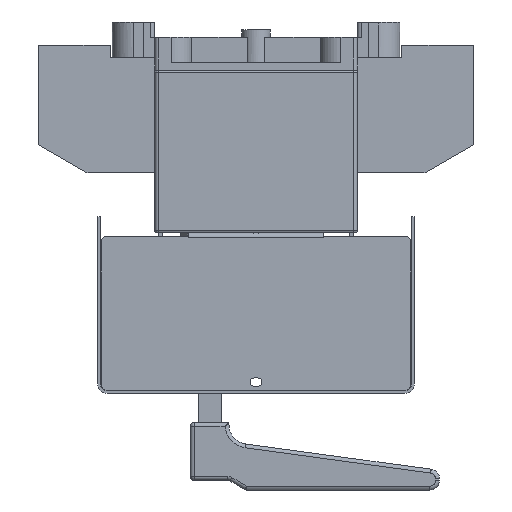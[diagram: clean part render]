
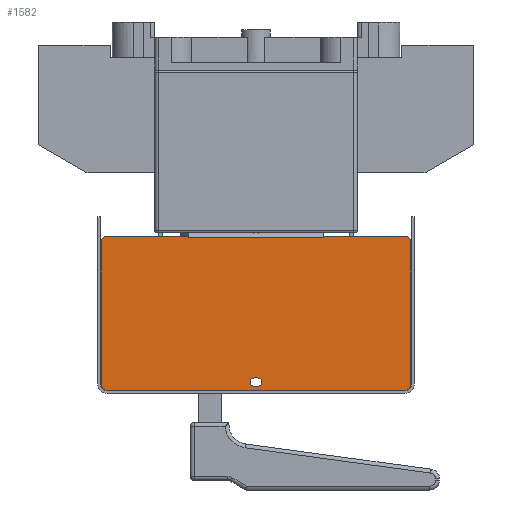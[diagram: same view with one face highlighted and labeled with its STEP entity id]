
A CAD part, left-side view. The second image highlights one B-rep face of the part: STEP entity #1582.
In plain terms, the highlighted planar face has unit normal (-1, 0, 0).
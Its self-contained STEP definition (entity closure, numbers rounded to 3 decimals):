
#694=FACE_BOUND('',#5368,.T.);
#695=FACE_BOUND('',#5369,.T.);
#1582=ADVANCED_FACE('',(#694,#695),#2783,.T.);
#2783=PLANE('',#28481);
#5368=EDGE_LOOP('',(#11204,#11205,#11206,#11207));
#5369=EDGE_LOOP('',(#11208,#11209,#11210,#11211,#11212,#11213,#11214,#11215,
#11216,#11217,#11218,#11219,#11220,#11221));
#6665=CIRCLE('',#28475,2.1);
#6666=CIRCLE('',#28476,2.1);
#6667=CIRCLE('',#28477,3.);
#6668=CIRCLE('',#28478,3.);
#6669=CIRCLE('',#28479,3.);
#6670=CIRCLE('',#28480,3.);
#11204=ORIENTED_EDGE('',*,*,#19575,.T.);
#11205=ORIENTED_EDGE('',*,*,#19576,.T.);
#11206=ORIENTED_EDGE('',*,*,#19577,.T.);
#11207=ORIENTED_EDGE('',*,*,#19578,.T.);
#11208=ORIENTED_EDGE('',*,*,#19554,.F.);
#11209=ORIENTED_EDGE('',*,*,#19552,.T.);
#11210=ORIENTED_EDGE('',*,*,#19539,.T.);
#11211=ORIENTED_EDGE('',*,*,#19556,.T.);
#11212=ORIENTED_EDGE('',*,*,#19559,.F.);
#11213=ORIENTED_EDGE('',*,*,#19579,.T.);
#11214=ORIENTED_EDGE('',*,*,#19580,.T.);
#11215=ORIENTED_EDGE('',*,*,#19581,.T.);
#11216=ORIENTED_EDGE('',*,*,#19582,.T.);
#11217=ORIENTED_EDGE('',*,*,#19583,.T.);
#11218=ORIENTED_EDGE('',*,*,#19584,.T.);
#11219=ORIENTED_EDGE('',*,*,#19585,.T.);
#11220=ORIENTED_EDGE('',*,*,#19586,.T.);
#11221=ORIENTED_EDGE('',*,*,#19587,.T.);
#16307=VERTEX_POINT('',#41655);
#16308=VERTEX_POINT('',#41657);
#16313=VERTEX_POINT('',#41678);
#16316=VERTEX_POINT('',#41686);
#16317=VERTEX_POINT('',#41690);
#16319=VERTEX_POINT('',#41696);
#16333=VERTEX_POINT('',#41728);
#16334=VERTEX_POINT('',#41729);
#16335=VERTEX_POINT('',#41731);
#16336=VERTEX_POINT('',#41733);
#16337=VERTEX_POINT('',#41736);
#16338=VERTEX_POINT('',#41738);
#16339=VERTEX_POINT('',#41740);
#16340=VERTEX_POINT('',#41742);
#16341=VERTEX_POINT('',#41744);
#16342=VERTEX_POINT('',#41746);
#16343=VERTEX_POINT('',#41748);
#16344=VERTEX_POINT('',#41750);
#19539=EDGE_CURVE('',#16308,#16307,#22964,.T.);
#19552=EDGE_CURVE('',#16313,#16308,#22974,.T.);
#19554=EDGE_CURVE('',#16313,#16316,#22976,.T.);
#19556=EDGE_CURVE('',#16307,#16317,#22978,.T.);
#19559=EDGE_CURVE('',#16319,#16317,#22981,.T.);
#19575=EDGE_CURVE('',#16333,#16334,#6665,.T.);
#19576=EDGE_CURVE('',#16334,#16335,#22991,.T.);
#19577=EDGE_CURVE('',#16335,#16336,#6666,.T.);
#19578=EDGE_CURVE('',#16336,#16333,#22992,.T.);
#19579=EDGE_CURVE('',#16319,#16337,#22993,.T.);
#19580=EDGE_CURVE('',#16337,#16338,#6667,.T.);
#19581=EDGE_CURVE('',#16338,#16339,#22994,.T.);
#19582=EDGE_CURVE('',#16339,#16340,#6668,.T.);
#19583=EDGE_CURVE('',#16340,#16341,#22995,.T.);
#19584=EDGE_CURVE('',#16341,#16342,#6669,.T.);
#19585=EDGE_CURVE('',#16342,#16343,#22996,.T.);
#19586=EDGE_CURVE('',#16343,#16344,#6670,.T.);
#19587=EDGE_CURVE('',#16344,#16316,#22997,.T.);
#22964=LINE('',#41656,#25921);
#22974=LINE('',#41681,#25931);
#22976=LINE('',#41685,#25933);
#22978=LINE('',#41689,#25935);
#22981=LINE('',#41695,#25938);
#22991=LINE('',#41730,#25948);
#22992=LINE('',#41734,#25949);
#22993=LINE('',#41735,#25950);
#22994=LINE('',#41739,#25951);
#22995=LINE('',#41743,#25952);
#22996=LINE('',#41747,#25953);
#22997=LINE('',#41751,#25954);
#25921=VECTOR('',#33573,1.);
#25931=VECTOR('',#33599,1.);
#25933=VECTOR('',#33603,1.);
#25935=VECTOR('',#33607,1.);
#25938=VECTOR('',#33612,1.);
#25948=VECTOR('',#33640,1.);
#25949=VECTOR('',#33643,1.);
#25950=VECTOR('',#33644,1.);
#25951=VECTOR('',#33647,1.);
#25952=VECTOR('',#33650,1.);
#25953=VECTOR('',#33653,1.);
#25954=VECTOR('',#33656,1.);
#28475=AXIS2_PLACEMENT_3D('',#41727,#33638,#33639);
#28476=AXIS2_PLACEMENT_3D('',#41732,#33641,#33642);
#28477=AXIS2_PLACEMENT_3D('',#41737,#33645,#33646);
#28478=AXIS2_PLACEMENT_3D('',#41741,#33648,#33649);
#28479=AXIS2_PLACEMENT_3D('',#41745,#33651,#33652);
#28480=AXIS2_PLACEMENT_3D('',#41749,#33654,#33655);
#28481=AXIS2_PLACEMENT_3D('',#41752,#33657,#33658);
#33573=DIRECTION('',(0.,1.,0.));
#33599=DIRECTION('',(0.,1.,0.));
#33603=DIRECTION('',(0.,0.,1.));
#33607=DIRECTION('',(0.,1.,0.));
#33612=DIRECTION('',(0.,0.,-1.));
#33638=DIRECTION('',(1.,0.,0.));
#33639=DIRECTION('',(0.,1.,0.));
#33640=DIRECTION('',(0.,-1.,0.));
#33641=DIRECTION('',(1.,0.,0.));
#33642=DIRECTION('',(0.,1.,0.));
#33643=DIRECTION('',(0.,1.,0.));
#33644=DIRECTION('',(0.,1.,0.));
#33645=DIRECTION('',(-1.,0.,0.));
#33646=DIRECTION('',(0.,1.,0.));
#33647=DIRECTION('',(0.,0.,-1.));
#33648=DIRECTION('',(-1.,0.,0.));
#33649=DIRECTION('',(0.,1.,0.));
#33650=DIRECTION('',(0.,-1.,0.));
#33651=DIRECTION('',(-1.,0.,0.));
#33652=DIRECTION('',(0.,1.,0.));
#33653=DIRECTION('',(0.,0.,1.));
#33654=DIRECTION('',(-1.,0.,0.));
#33655=DIRECTION('',(0.,1.,0.));
#33656=DIRECTION('',(0.,1.,0.));
#33657=DIRECTION('',(-1.,0.,0.));
#33658=DIRECTION('',(0.,-1.,0.));
#41655=CARTESIAN_POINT('',(-189.3,35.,-86.8));
#41656=CARTESIAN_POINT('',(-189.3,50.5,-86.8));
#41657=CARTESIAN_POINT('',(-189.3,-35.,-86.8));
#41678=CARTESIAN_POINT('',(-189.3,-35.002,-86.8));
#41681=CARTESIAN_POINT('',(-189.3,77.,-86.8));
#41685=CARTESIAN_POINT('',(-189.3,-35.002,-162.8));
#41686=CARTESIAN_POINT('',(-189.3,-35.002,-85.8));
#41689=CARTESIAN_POINT('',(-189.3,77.,-86.8));
#41690=CARTESIAN_POINT('',(-189.3,35.002,-86.8));
#41695=CARTESIAN_POINT('',(-189.3,35.002,-162.8));
#41696=CARTESIAN_POINT('',(-189.3,35.002,-85.8));
#41727=CARTESIAN_POINT('',(-189.3,1.,-161.4));
#41728=CARTESIAN_POINT('',(-189.3,1.,-163.5));
#41729=CARTESIAN_POINT('',(-189.3,1.,-159.3));
#41730=CARTESIAN_POINT('',(-189.3,1.,-159.3));
#41731=CARTESIAN_POINT('',(-189.3,-1.,-159.3));
#41732=CARTESIAN_POINT('',(-189.3,-1.,-161.4));
#41733=CARTESIAN_POINT('',(-189.3,-1.,-163.5));
#41734=CARTESIAN_POINT('',(-189.3,-1.,-163.5));
#41735=CARTESIAN_POINT('',(-189.3,-77.,-85.8));
#41736=CARTESIAN_POINT('',(-189.3,77.,-85.8));
#41737=CARTESIAN_POINT('',(-189.3,77.,-88.8));
#41738=CARTESIAN_POINT('',(-189.3,80.,-88.8));
#41739=CARTESIAN_POINT('',(-189.3,80.,-88.8));
#41740=CARTESIAN_POINT('',(-189.3,80.,-162.8));
#41741=CARTESIAN_POINT('',(-189.3,77.,-162.8));
#41742=CARTESIAN_POINT('',(-189.3,77.,-165.8));
#41743=CARTESIAN_POINT('',(-189.3,77.,-165.8));
#41744=CARTESIAN_POINT('',(-189.3,-77.,-165.8));
#41745=CARTESIAN_POINT('',(-189.3,-77.,-162.8));
#41746=CARTESIAN_POINT('',(-189.3,-80.,-162.8));
#41747=CARTESIAN_POINT('',(-189.3,-80.,-162.8));
#41748=CARTESIAN_POINT('',(-189.3,-80.,-88.8));
#41749=CARTESIAN_POINT('',(-189.3,-77.,-88.8));
#41750=CARTESIAN_POINT('',(-189.3,-77.,-85.8));
#41751=CARTESIAN_POINT('',(-189.3,-77.,-85.8));
#41752=CARTESIAN_POINT('',(-189.3,77.,-162.8));
